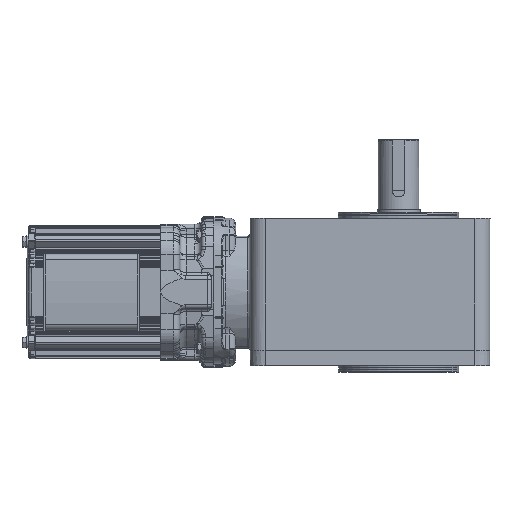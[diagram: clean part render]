
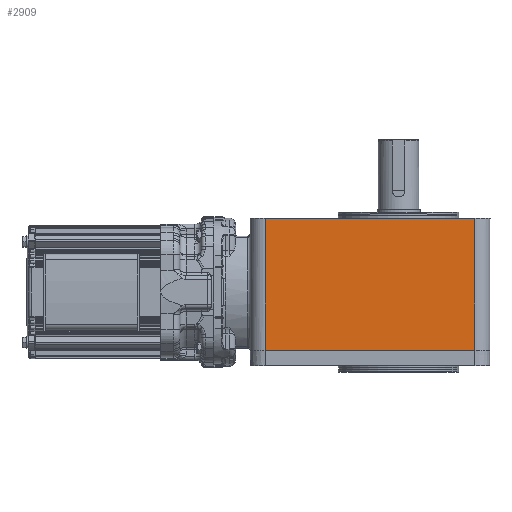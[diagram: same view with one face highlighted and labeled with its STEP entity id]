
A CAD part, top view. The second image highlights one B-rep face of the part: STEP entity #2909.
In plain terms, the highlighted planar face has unit normal (0, 0, 1).
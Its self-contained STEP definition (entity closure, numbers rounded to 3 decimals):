
#2909 = ADVANCED_FACE( '', ( #7160 ), #7161, .T. );
#7160 = FACE_OUTER_BOUND( '', #19618, .T. );
#7161 = PLANE( '', #19619 );
#19618 = EDGE_LOOP( '', ( #48382, #48383, #48384, #48385 ) );
#19619 = AXIS2_PLACEMENT_3D( '', #48386, #48387, #48388 );
#48382 = ORIENTED_EDGE( '', *, *, #61777, .F. );
#48383 = ORIENTED_EDGE( '', *, *, #59915, .T. );
#48384 = ORIENTED_EDGE( '', *, *, #61778, .T. );
#48385 = ORIENTED_EDGE( '', *, *, #59467, .T. );
#48386 = CARTESIAN_POINT( '', ( 108.912, -53.245, 116.17 ) );
#48387 = DIRECTION( '', ( 0., 0., 1. ) );
#48388 = DIRECTION( '', ( 1., 0., 0. ) );
#59467 = EDGE_CURVE( '', #65830, #65831, #65832, .T. );
#59915 = EDGE_CURVE( '', #66621, #66618, #66622, .T. );
#61777 = EDGE_CURVE( '', #66621, #65831, #69628, .T. );
#61778 = EDGE_CURVE( '', #66618, #65830, #69629, .T. );
#65830 = VERTEX_POINT( '', #75397 );
#65831 = VERTEX_POINT( '', #75398 );
#65832 = B_SPLINE_CURVE_WITH_KNOTS( '', 1, ( #75399, #75400 ), .UNSPECIFIED., .F., .F., ( 2, 2 ), ( 0., 1. ), .UNSPECIFIED. );
#66618 = VERTEX_POINT( '', #77316 );
#66621 = VERTEX_POINT( '', #77319 );
#66622 = LINE( '', #77320, #77321 );
#69628 = LINE( '', #85516, #85517 );
#69629 = LINE( '', #85518, #85519 );
#75397 = CARTESIAN_POINT( '', ( -56.088, -157.745, 116.166 ) );
#75398 = CARTESIAN_POINT( '', ( 108.912, -157.745, 116.166 ) );
#75399 = CARTESIAN_POINT( '', ( -56.088, -157.745, 116.17 ) );
#75400 = CARTESIAN_POINT( '', ( 108.912, -157.745, 116.17 ) );
#77316 = CARTESIAN_POINT( '', ( -56.088, -53.745, 116.17 ) );
#77319 = CARTESIAN_POINT( '', ( 108.912, -53.745, 116.17 ) );
#77320 = CARTESIAN_POINT( '', ( 108.912, -53.745, 116.17 ) );
#77321 = VECTOR( '', #100386, 1000. );
#85516 = CARTESIAN_POINT( '', ( 108.912, -53.245, 116.17 ) );
#85517 = VECTOR( '', #103011, 1000. );
#85518 = CARTESIAN_POINT( '', ( -56.088, -53.245, 116.17 ) );
#85519 = VECTOR( '', #103012, 1000. );
#100386 = DIRECTION( '', ( -1., 0., 0. ) );
#103011 = DIRECTION( '', ( 0., -1., 0. ) );
#103012 = DIRECTION( '', ( 0., -1., 0. ) );
